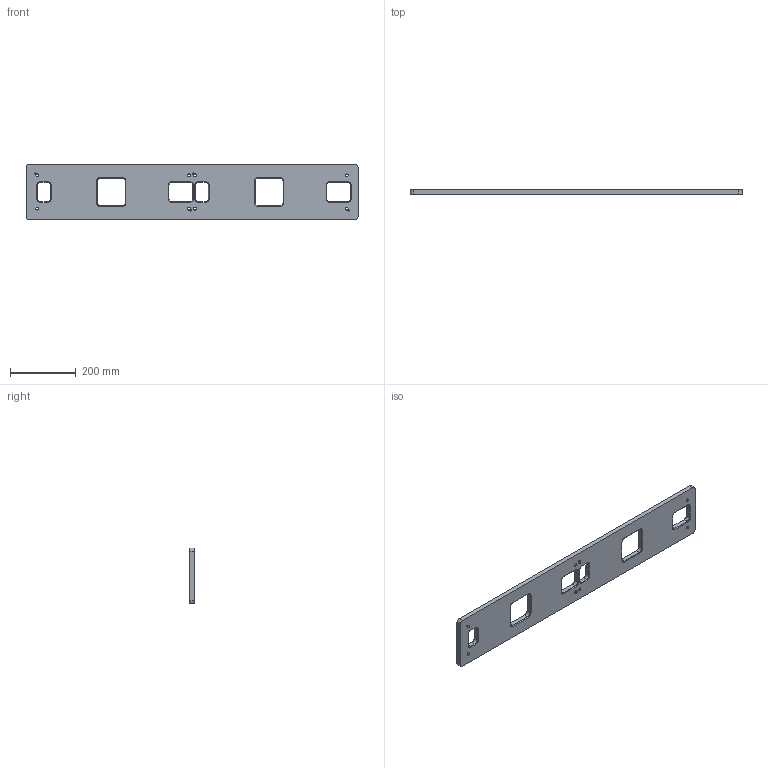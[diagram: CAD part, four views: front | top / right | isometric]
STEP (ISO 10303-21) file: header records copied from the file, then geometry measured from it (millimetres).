
FILE_DESCRIPTION (( 'STEP AP214' ), '1' );
FILE_NAME ('S3-AN-04.06-Rev1, Flyway Mounting Plate Example 2X1, Through Hole Option.STEP', '2025-08-25T21:49:05', ( '' ), ( '' ), 'SwSTEP 2.0', 'SolidWorks 2022', '' );
FILE_SCHEMA (( 'AUTOMOTIVE_DESIGN' ));
Length unit declared in the file: millimetre
Products named in the file (1): S3-AN-04.06-Rev1, Flyway Mounting Plate Example 2X1, Through Hole Option
Bounding box: 1010 x 15 x 170 mm (x, y, z)
Volume: 2150590.6 mm3; surface area: 347355.8 mm2
Topology: 1 solids, 1 shells, 272 faces, 744 edges, 480 vertices
Faces by surface type: plane 196, cylinder 52, cone 24
Entity records: 8653 total; most frequent: CARTESIAN_POINT 1497, ORIENTED_EDGE 1488, DIRECTION 1418, EDGE_CURVE 744, VECTOR 616, LINE 616, VERTEX_POINT 480, AXIS2_PLACEMENT_3D 401
